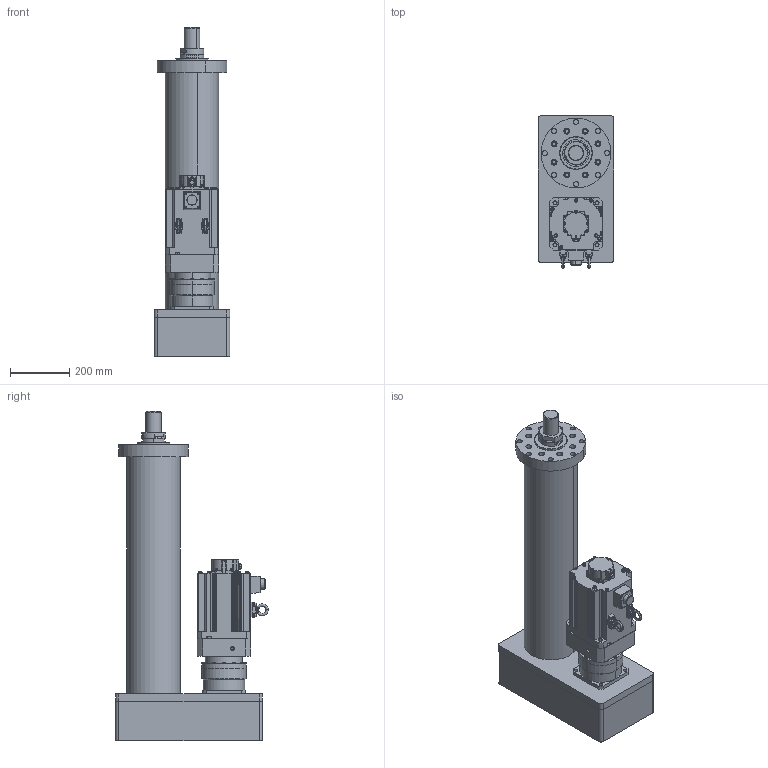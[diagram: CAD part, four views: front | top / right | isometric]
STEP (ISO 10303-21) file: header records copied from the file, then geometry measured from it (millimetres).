
FILE_DESCRIPTION (( 'STEP AP203' ), '1' );
FILE_NAME ('RKF160-P-FA-B3.STEP', '2025-01-23T10:13:48', ( '' ), ( '' ), 'SwSTEP 2.0', 'SolidWorks 2024', '' );
FILE_SCHEMA (( 'CONFIG_CONTROL_DESIGN' ));
Length unit declared in the file: millimetre
Products named in the file (10): 复件 180前法兰^RKF160-P-FA-B3; 复件 伺服电机176x176_1^RKF160-P-FA-B3; RKF160-P-FA-B3; 复件 缸筒_1_1^RKF160-P-FA-B3; 复件 M52X3外螺纹_1^RKF160-P-FA-B3; 复件 法兰感应器安装板^RKF160-P-FA-B3; 复件 支撑_1^RKF160-P-FA-B3; 复件 盖板_1^RKF160-P-FA-B3; 复件 内六角螺栓-M8_KM080010_1^RKF160-P-FA-B3; 复件 JVB140-L1(35-79-114.3-200-M8)(35轴)_1^RKF160-P-FA-B3
Assembly tree (10 placements, depth 2):
  RKF160-P-FA-B3
    复件 内六角螺栓-M8_KM080010_1^RKF160-P-FA-B3  x2
    复件 缸筒_1_1^RKF160-P-FA-B3
    复件 盖板_1^RKF160-P-FA-B3
    复件 M52X3外螺纹_1^RKF160-P-FA-B3
    复件 支撑_1^RKF160-P-FA-B3
    复件 JVB140-L1(35-79-114.3-200-M8)(35轴)_1^RKF160-P-FA-B3
    复件 伺服电机176x176_1^RKF160-P-FA-B3
    复件 180前法兰^RKF160-P-FA-B3
    复件 法兰感应器安装板^RKF160-P-FA-B3
Bounding box: 255 x 514 x 1108 mm (x, y, z)
Volume: 35897780.7 mm3; surface area: 2448555.8 mm2
Topology: 11 solids, 22 shells, 1377 faces, 3504 edges, 2295 vertices
Faces by surface type: plane 639, cylinder 566, cone 98, bspline 48, torus 26
Entity records: 46040 total; most frequent: CARTESIAN_POINT 12070, ORIENTED_EDGE 6880, DIRECTION 6739, EDGE_CURVE 3444, AXIS2_PLACEMENT_3D 2425, VERTEX_POINT 2265, VECTOR 1889, LINE 1889
